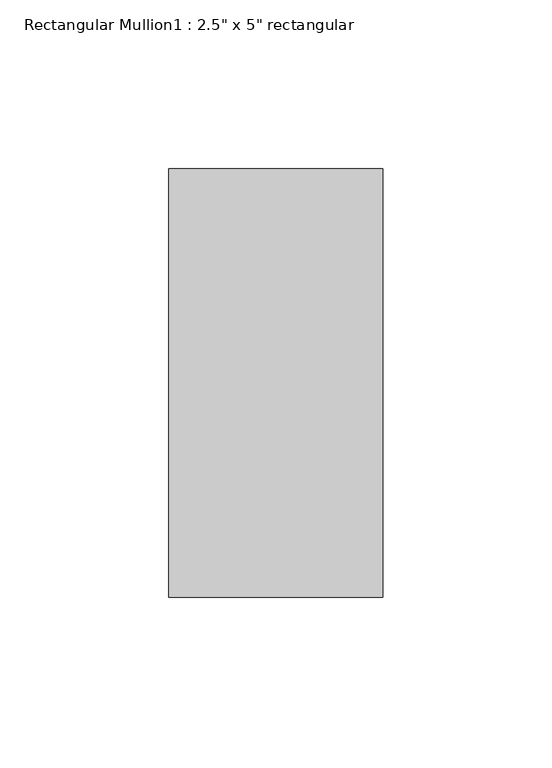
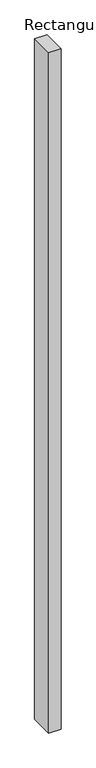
"""IFC4 building model written with IfcOpenShell, lengths in millimetres: member geometry."""

from ifc_helpers import new_model, si_unit, frame, origin, place, context, project, spatial, polyline, outline, extrude, source, transform, mapped, element, save


def member_3ba9e939(model_context):
    return source(origin(), model_context, "Body", "SweptSolid", [
        extrude(outline(polyline([(31.75, 63.5), (31.75, -63.5), (-31.75, -63.5), (-31.75, 63.5), (31.75, 63.5)])), frame((0.0, 0.0, -3746.5), z_axis=(0.0, 0.0, 1.0), x_axis=(1.0, 0.0, 0.0)), (0.0, 0.0, 1.0), 3746.5),
    ])


if __name__ == "__main__":
    model = new_model("IFC4")
    model_context = context("Model", 3, world=origin())
    ifc_project = project(units=[si_unit("LENGTHUNIT", "METRE", prefix="MILLI")], contexts=[model_context])
    site = spatial("IfcSite", under=ifc_project)
    building = spatial("IfcBuilding", under=site)
    placement = place(None, origin())
    member_shape = member_3ba9e939(model_context)
    element("IfcMember", 1, ObjectType="Rectangular Mullion1 : 2.5\" x 5\" rectangular", at=placement, inside=building, context=model_context, shape_type="MappedRepresentation", body=[
        mapped(member_shape, transform((0.0, 0.0, 0.0), x_axis=(1.0, 0.0, 0.0), y_axis=(0.0, 1.0, 0.0), z_axis=(0.0, 0.0, 1.0))),
    ])
    save(model, "model.ifc")
